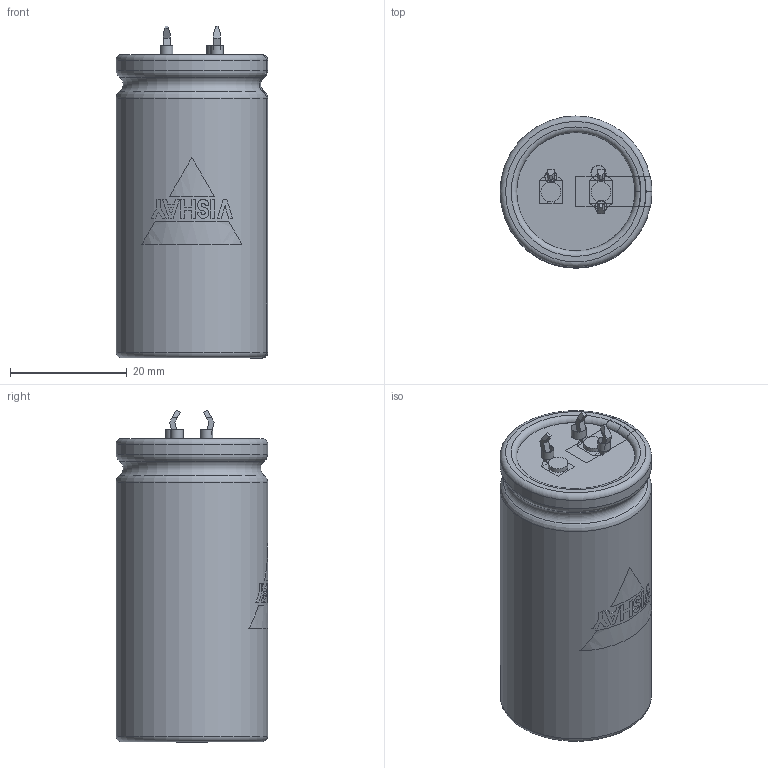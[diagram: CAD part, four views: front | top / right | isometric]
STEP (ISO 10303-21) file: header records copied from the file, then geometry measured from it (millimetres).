
FILE_DESCRIPTION(('FreeCAD Model'),'2;1');
FILE_NAME( 'C:/Users/Gebruiker/Documents/FreeCAD/SnapIn_25x50_3pin_4.0.step', '2020-11-12T21:10:08',('Author'),(''), 'Open CASCADE STEP processor 6.8','FreeCAD','Unknown');
FILE_SCHEMA(('AUTOMOTIVE_DESIGN_CC2 { 1 2 10303 214 -1 1 5 4 }'));
Length unit declared in the file: millimetre
Products named in the file (9): ASSEMBLY; TerminalPlus; Disc; BottomInsulation; Can3D; InkMinusBar; InkLogo; TerminalMinKP; PCBHolesKP
Assembly tree (8 placements, depth 2):
  ASSEMBLY
    TerminalPlus
    Disc
    BottomInsulation
    Can3D
    InkMinusBar
    InkLogo
    TerminalMinKP
    PCBHolesKP
Bounding box: 26.05 x 26.05 x 56.95 mm (x, y, z)
Volume: 30855.4 mm3; surface area: 12005.6 mm2
Topology: 17 solids, 17 shells, 216 faces, 538 edges, 351 vertices
Faces by surface type: plane 167, cylinder 31, torus 18
Full cylindrical faces by diameter (mm): 2 x2, 2.1 x2, 2.5 x1, 2.6 x1, 3.4 x2, 20.3 x1, 20.8 x2, 26 x2
Entity records: 21461 total; most frequent: CARTESIAN_POINT 9464, DIRECTION 1872, ORIENTED_EDGE 1076, PCURVE 1076, DEFINITIONAL_REPRESENTATION 1076, LINE 1058, VECTOR 1058, EDGE_CURVE 538
